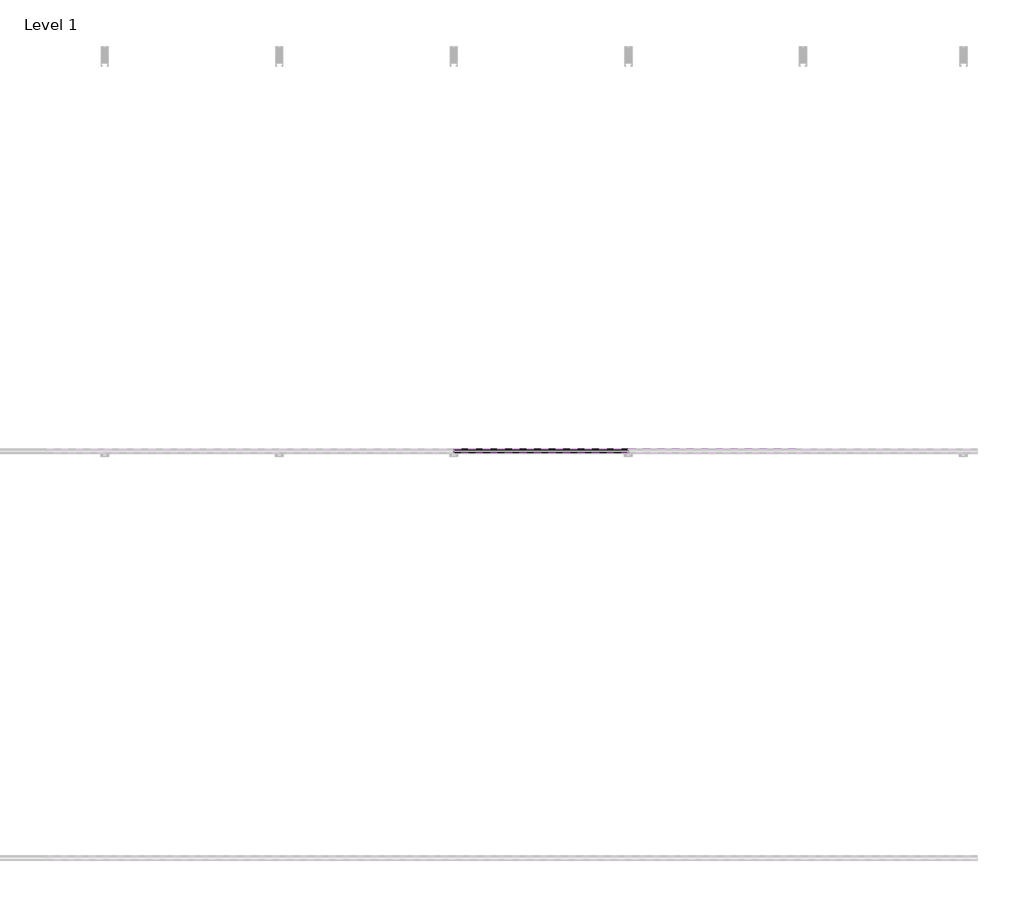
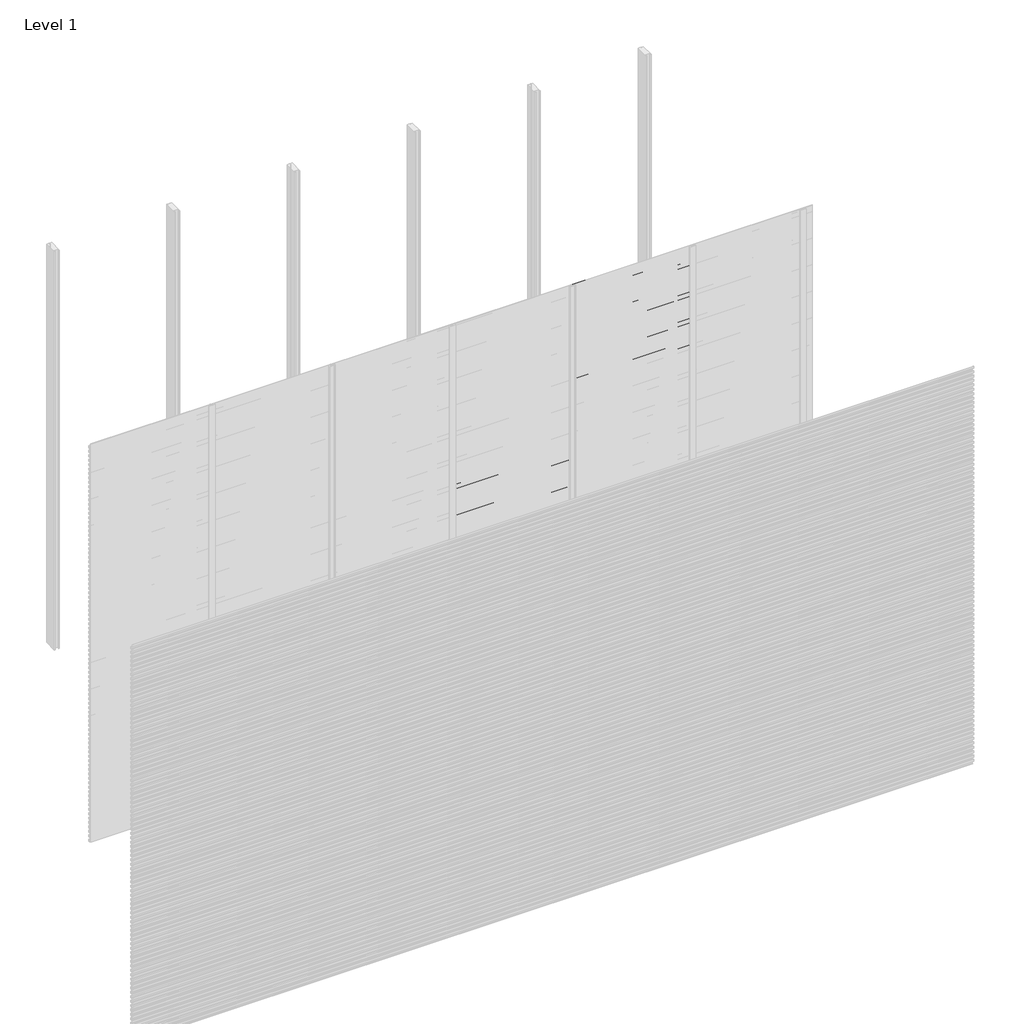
# One storey, part 57 of 96: 77 proxies.
"""IFC4 building model written with IfcOpenShell, lengths in millimetres."""

from ifc_helpers import new_model, si_unit, frame, origin, place, context, project, spatial, polyline, outline, extrude, element, save

model = new_model("IFC4")

# Units and contexts
model_context = context("Model", 3, world=origin())
ifc_project = project(units=[si_unit("LENGTHUNIT", "METRE", prefix="MILLI")], contexts=[model_context])

# Site, building, storey
site = spatial("IfcSite", under=ifc_project)
building = spatial("IfcBuilding", under=site)
storey = spatial("IfcBuildingStorey", under=building, Name="Level 1", Elevation=0.0)

# Proxies
placement = place(None, origin())
element("IfcBuildingElementProxy", 1, Name="Wall Sweeps", at=placement, inside=storey, context=model_context, shape_type="SweptSolid", body=[
    extrude(outline(polyline([(-23977.6, 1772.9655033), (-23977.6, 1758.6779188), (-23982.4114965, 1755.9), (-23982.4114965, 1757.1701706), (-23978.85, 1759.2264016), (-23978.85, 1772.2437382), (-23998.0, 1783.3000799), (-23998.0, 1798.2), (-23996.75, 1798.2), (-23996.75, 1784.0217609), (-23977.6, 1772.9655033)])), frame((3428.5714286, 0.0, 0.0), z_axis=(1.0, 0.0, 0.0), x_axis=(0.0, 1.0, 0.0)), (0.0, 0.0, 1.0), 857.1428571),
])
element("IfcBuildingElementProxy", 2, Name="Wall Sweeps", at=placement, inside=storey, context=model_context, shape_type="SweptSolid", body=[
    extrude(outline(polyline([(-23977.6, 1739.6655033), (-23977.6, 1725.3779188), (-23982.4114965, 1722.6), (-23982.4114965, 1723.8701706), (-23978.85, 1725.9264016), (-23978.85, 1738.9437382), (-23998.0, 1750.0000799), (-23998.0, 1764.9), (-23996.75, 1764.9), (-23996.75, 1750.7217609), (-23977.6, 1739.6655033)])), frame((3428.5714286, 0.0, 0.0), z_axis=(1.0, 0.0, 0.0), x_axis=(0.0, 1.0, 0.0)), (0.0, 0.0, 1.0), 857.1428571),
])
element("IfcBuildingElementProxy", 3, Name="Wall Sweeps", at=placement, inside=storey, context=model_context, shape_type="SweptSolid", body=[
    extrude(outline(polyline([(-23977.6, 1706.3655033), (-23977.6, 1692.0779188), (-23982.4114965, 1689.3), (-23982.4114965, 1690.5701706), (-23978.85, 1692.6264016), (-23978.85, 1705.6437382), (-23998.0, 1716.7000799), (-23998.0, 1731.6), (-23996.75, 1731.6), (-23996.75, 1717.4217609), (-23977.6, 1706.3655033)])), frame((3428.5714286, 0.0, 0.0), z_axis=(1.0, 0.0, 0.0), x_axis=(0.0, 1.0, 0.0)), (0.0, 0.0, 1.0), 857.1428571),
])
element("IfcBuildingElementProxy", 4, Name="Wall Sweeps", at=placement, inside=storey, context=model_context, shape_type="SweptSolid", body=[
    extrude(outline(polyline([(-23977.6, 1673.0655033), (-23977.6, 1658.7779188), (-23982.4114965, 1656.0), (-23982.4114965, 1657.2701706), (-23978.85, 1659.3264016), (-23978.85, 1672.3437382), (-23998.0, 1683.4000799), (-23998.0, 1698.3), (-23996.75, 1698.3), (-23996.75, 1684.1217609), (-23977.6, 1673.0655033)])), frame((3428.5714286, 0.0, 0.0), z_axis=(1.0, 0.0, 0.0), x_axis=(0.0, 1.0, 0.0)), (0.0, 0.0, 1.0), 857.1428571),
])
element("IfcBuildingElementProxy", 5, Name="Wall Sweeps", at=placement, inside=storey, context=model_context, shape_type="SweptSolid", body=[
    extrude(outline(polyline([(-23977.6, 1639.7655033), (-23977.6, 1625.4779188), (-23982.4114965, 1622.7), (-23982.4114965, 1623.9701706), (-23978.85, 1626.0264016), (-23978.85, 1639.0437382), (-23998.0, 1650.1000799), (-23998.0, 1665.0), (-23996.75, 1665.0), (-23996.75, 1650.8217609), (-23977.6, 1639.7655033)])), frame((3428.5714286, 0.0, 0.0), z_axis=(1.0, 0.0, 0.0), x_axis=(0.0, 1.0, 0.0)), (0.0, 0.0, 1.0), 857.1428571),
])
element("IfcBuildingElementProxy", 6, Name="Wall Sweeps", at=placement, inside=storey, context=model_context, shape_type="SweptSolid", body=[
    extrude(outline(polyline([(-23977.6, 1606.4655033), (-23977.6, 1592.1779188), (-23982.4114965, 1589.4), (-23982.4114965, 1590.6701706), (-23978.85, 1592.7264016), (-23978.85, 1605.7437382), (-23998.0, 1616.8000799), (-23998.0, 1631.7), (-23996.75, 1631.7), (-23996.75, 1617.5217609), (-23977.6, 1606.4655033)])), frame((3428.5714286, 0.0, 0.0), z_axis=(1.0, 0.0, 0.0), x_axis=(0.0, 1.0, 0.0)), (0.0, 0.0, 1.0), 857.1428571),
])
element("IfcBuildingElementProxy", 7, Name="Wall Sweeps", at=placement, inside=storey, context=model_context, shape_type="SweptSolid", body=[
    extrude(outline(polyline([(-23977.6, 1573.1655033), (-23977.6, 1558.8779188), (-23982.4114965, 1556.1), (-23982.4114965, 1557.3701706), (-23978.85, 1559.4264016), (-23978.85, 1572.4437382), (-23998.0, 1583.5000799), (-23998.0, 1598.4), (-23996.75, 1598.4), (-23996.75, 1584.2217609), (-23977.6, 1573.1655033)])), frame((3428.5714286, 0.0, 0.0), z_axis=(1.0, 0.0, 0.0), x_axis=(0.0, 1.0, 0.0)), (0.0, 0.0, 1.0), 857.1428571),
])
element("IfcBuildingElementProxy", 8, Name="Wall Sweeps", at=placement, inside=storey, context=model_context, shape_type="SweptSolid", body=[
    extrude(outline(polyline([(-23977.6, 1539.8655033), (-23977.6, 1525.5779188), (-23982.4114965, 1522.8), (-23982.4114965, 1524.0701706), (-23978.85, 1526.1264016), (-23978.85, 1539.1437382), (-23998.0, 1550.2000799), (-23998.0, 1565.1), (-23996.75, 1565.1), (-23996.75, 1550.9217609), (-23977.6, 1539.8655033)])), frame((3428.5714286, 0.0, 0.0), z_axis=(1.0, 0.0, 0.0), x_axis=(0.0, 1.0, 0.0)), (0.0, 0.0, 1.0), 857.1428571),
])
element("IfcBuildingElementProxy", 9, Name="Wall Sweeps", at=placement, inside=storey, context=model_context, shape_type="SweptSolid", body=[
    extrude(outline(polyline([(-23977.6, 1506.5655033), (-23977.6, 1492.2779188), (-23982.4114965, 1489.5), (-23982.4114965, 1490.7701706), (-23978.85, 1492.8264016), (-23978.85, 1505.8437382), (-23998.0, 1516.9000799), (-23998.0, 1531.8), (-23996.75, 1531.8), (-23996.75, 1517.6217609), (-23977.6, 1506.5655033)])), frame((3428.5714286, 0.0, 0.0), z_axis=(1.0, 0.0, 0.0), x_axis=(0.0, 1.0, 0.0)), (0.0, 0.0, 1.0), 857.1428571),
])
element("IfcBuildingElementProxy", 10, Name="Wall Sweeps", at=placement, inside=storey, context=model_context, shape_type="SweptSolid", body=[
    extrude(outline(polyline([(-23977.6, 1473.2655033), (-23977.6, 1458.9779188), (-23982.4114965, 1456.2), (-23982.4114965, 1457.4701706), (-23978.85, 1459.5264016), (-23978.85, 1472.5437382), (-23998.0, 1483.6000799), (-23998.0, 1498.5), (-23996.75, 1498.5), (-23996.75, 1484.3217609), (-23977.6, 1473.2655033)])), frame((3428.5714286, 0.0, 0.0), z_axis=(1.0, 0.0, 0.0), x_axis=(0.0, 1.0, 0.0)), (0.0, 0.0, 1.0), 857.1428571),
])
element("IfcBuildingElementProxy", 11, Name="Wall Sweeps", at=placement, inside=storey, context=model_context, shape_type="SweptSolid", body=[
    extrude(outline(polyline([(-23977.6, 1439.9655033), (-23977.6, 1425.6779188), (-23982.4114965, 1422.9), (-23982.4114965, 1424.1701706), (-23978.85, 1426.2264016), (-23978.85, 1439.2437382), (-23998.0, 1450.3000799), (-23998.0, 1465.2), (-23996.75, 1465.2), (-23996.75, 1451.0217609), (-23977.6, 1439.9655033)])), frame((3428.5714286, 0.0, 0.0), z_axis=(1.0, 0.0, 0.0), x_axis=(0.0, 1.0, 0.0)), (0.0, 0.0, 1.0), 857.1428571),
])
element("IfcBuildingElementProxy", 12, Name="Wall Sweeps", at=placement, inside=storey, context=model_context, shape_type="SweptSolid", body=[
    extrude(outline(polyline([(-23977.6, 1406.6655033), (-23977.6, 1392.3779188), (-23982.4114965, 1389.6), (-23982.4114965, 1390.8701706), (-23978.85, 1392.9264016), (-23978.85, 1405.9437382), (-23998.0, 1417.0000799), (-23998.0, 1431.9), (-23996.75, 1431.9), (-23996.75, 1417.7217609), (-23977.6, 1406.6655033)])), frame((3428.5714286, 0.0, 0.0), z_axis=(1.0, 0.0, 0.0), x_axis=(0.0, 1.0, 0.0)), (0.0, 0.0, 1.0), 857.1428571),
])
element("IfcBuildingElementProxy", 13, Name="Wall Sweeps", at=placement, inside=storey, context=model_context, shape_type="SweptSolid", body=[
    extrude(outline(polyline([(-23977.6, 1373.3655033), (-23977.6, 1359.0779188), (-23982.4114965, 1356.3), (-23982.4114965, 1357.5701706), (-23978.85, 1359.6264016), (-23978.85, 1372.6437382), (-23998.0, 1383.7000799), (-23998.0, 1398.6), (-23996.75, 1398.6), (-23996.75, 1384.4217609), (-23977.6, 1373.3655033)])), frame((3428.5714286, 0.0, 0.0), z_axis=(1.0, 0.0, 0.0), x_axis=(0.0, 1.0, 0.0)), (0.0, 0.0, 1.0), 857.1428571),
])
element("IfcBuildingElementProxy", 14, Name="Wall Sweeps", at=placement, inside=storey, context=model_context, shape_type="SweptSolid", body=[
    extrude(outline(polyline([(-23977.6, 1340.0655033), (-23977.6, 1325.7779188), (-23982.4114965, 1323.0), (-23982.4114965, 1324.2701706), (-23978.85, 1326.3264016), (-23978.85, 1339.3437382), (-23998.0, 1350.4000799), (-23998.0, 1365.3), (-23996.75, 1365.3), (-23996.75, 1351.1217609), (-23977.6, 1340.0655033)])), frame((3428.5714286, 0.0, 0.0), z_axis=(1.0, 0.0, 0.0), x_axis=(0.0, 1.0, 0.0)), (0.0, 0.0, 1.0), 857.1428571),
])
element("IfcBuildingElementProxy", 15, Name="Wall Sweeps", at=placement, inside=storey, context=model_context, shape_type="SweptSolid", body=[
    extrude(outline(polyline([(-23977.6, 1306.7655033), (-23977.6, 1292.4779188), (-23982.4114965, 1289.7), (-23982.4114965, 1290.9701706), (-23978.85, 1293.0264016), (-23978.85, 1306.0437382), (-23998.0, 1317.1000799), (-23998.0, 1332.0), (-23996.75, 1332.0), (-23996.75, 1317.8217609), (-23977.6, 1306.7655033)])), frame((3428.5714286, 0.0, 0.0), z_axis=(1.0, 0.0, 0.0), x_axis=(0.0, 1.0, 0.0)), (0.0, 0.0, 1.0), 857.1428571),
])
element("IfcBuildingElementProxy", 16, Name="Wall Sweeps", at=placement, inside=storey, context=model_context, shape_type="SweptSolid", body=[
    extrude(outline(polyline([(-23977.6, 1273.4655033), (-23977.6, 1259.1779188), (-23982.4114965, 1256.4), (-23982.4114965, 1257.6701706), (-23978.85, 1259.7264016), (-23978.85, 1272.7437382), (-23998.0, 1283.8000799), (-23998.0, 1298.7), (-23996.75, 1298.7), (-23996.75, 1284.5217609), (-23977.6, 1273.4655033)])), frame((3428.5714286, 0.0, 0.0), z_axis=(1.0, 0.0, 0.0), x_axis=(0.0, 1.0, 0.0)), (0.0, 0.0, 1.0), 857.1428571),
])
element("IfcBuildingElementProxy", 17, Name="Wall Sweeps", at=placement, inside=storey, context=model_context, shape_type="SweptSolid", body=[
    extrude(outline(polyline([(-23977.6, 1240.1655033), (-23977.6, 1225.8779188), (-23982.4114965, 1223.1), (-23982.4114965, 1224.3701706), (-23978.85, 1226.4264016), (-23978.85, 1239.4437382), (-23998.0, 1250.5000799), (-23998.0, 1265.4), (-23996.75, 1265.4), (-23996.75, 1251.2217609), (-23977.6, 1240.1655033)])), frame((3428.5714286, 0.0, 0.0), z_axis=(1.0, 0.0, 0.0), x_axis=(0.0, 1.0, 0.0)), (0.0, 0.0, 1.0), 857.1428571),
])
element("IfcBuildingElementProxy", 18, Name="Wall Sweeps", at=placement, inside=storey, context=model_context, shape_type="SweptSolid", body=[
    extrude(outline(polyline([(-23977.6, 1206.8655033), (-23977.6, 1192.5779188), (-23982.4114965, 1189.8), (-23982.4114965, 1191.0701706), (-23978.85, 1193.1264016), (-23978.85, 1206.1437382), (-23998.0, 1217.2000799), (-23998.0, 1232.1), (-23996.75, 1232.1), (-23996.75, 1217.9217609), (-23977.6, 1206.8655033)])), frame((3428.5714286, 0.0, 0.0), z_axis=(1.0, 0.0, 0.0), x_axis=(0.0, 1.0, 0.0)), (0.0, 0.0, 1.0), 857.1428571),
])
element("IfcBuildingElementProxy", 19, Name="Wall Sweeps", at=placement, inside=storey, context=model_context, shape_type="SweptSolid", body=[
    extrude(outline(polyline([(-23977.6, 1173.5655033), (-23977.6, 1159.2779188), (-23982.4114965, 1156.5), (-23982.4114965, 1157.7701706), (-23978.85, 1159.8264016), (-23978.85, 1172.8437382), (-23998.0, 1183.9000799), (-23998.0, 1198.8), (-23996.75, 1198.8), (-23996.75, 1184.6217609), (-23977.6, 1173.5655033)])), frame((3428.5714286, 0.0, 0.0), z_axis=(1.0, 0.0, 0.0), x_axis=(0.0, 1.0, 0.0)), (0.0, 0.0, 1.0), 857.1428571),
])
element("IfcBuildingElementProxy", 20, Name="Wall Sweeps", at=placement, inside=storey, context=model_context, shape_type="SweptSolid", body=[
    extrude(outline(polyline([(-23977.6, 1140.2655033), (-23977.6, 1125.9779188), (-23982.4114965, 1123.2), (-23982.4114965, 1124.4701706), (-23978.85, 1126.5264016), (-23978.85, 1139.5437382), (-23998.0, 1150.6000799), (-23998.0, 1165.5), (-23996.75, 1165.5), (-23996.75, 1151.3217609), (-23977.6, 1140.2655033)])), frame((3428.5714286, 0.0, 0.0), z_axis=(1.0, 0.0, 0.0), x_axis=(0.0, 1.0, 0.0)), (0.0, 0.0, 1.0), 857.1428571),
])
element("IfcBuildingElementProxy", 21, Name="Wall Sweeps", at=placement, inside=storey, context=model_context, shape_type="SweptSolid", body=[
    extrude(outline(polyline([(-23977.6, 1106.9655033), (-23977.6, 1092.6779188), (-23982.4114965, 1089.9), (-23982.4114965, 1091.1701706), (-23978.85, 1093.2264016), (-23978.85, 1106.2437382), (-23998.0, 1117.3000799), (-23998.0, 1132.2), (-23996.75, 1132.2), (-23996.75, 1118.0217609), (-23977.6, 1106.9655033)])), frame((3428.5714286, 0.0, 0.0), z_axis=(1.0, 0.0, 0.0), x_axis=(0.0, 1.0, 0.0)), (0.0, 0.0, 1.0), 857.1428571),
])
element("IfcBuildingElementProxy", 22, Name="Wall Sweeps", at=placement, inside=storey, context=model_context, shape_type="SweptSolid", body=[
    extrude(outline(polyline([(-23977.6, 1073.6655033), (-23977.6, 1059.3779188), (-23982.4114965, 1056.6), (-23982.4114965, 1057.8701706), (-23978.85, 1059.9264016), (-23978.85, 1072.9437382), (-23998.0, 1084.0000799), (-23998.0, 1098.9), (-23996.75, 1098.9), (-23996.75, 1084.7217609), (-23977.6, 1073.6655033)])), frame((3428.5714286, 0.0, 0.0), z_axis=(1.0, 0.0, 0.0), x_axis=(0.0, 1.0, 0.0)), (0.0, 0.0, 1.0), 857.1428571),
])
element("IfcBuildingElementProxy", 23, Name="Wall Sweeps", at=placement, inside=storey, context=model_context, shape_type="SweptSolid", body=[
    extrude(outline(polyline([(-23977.6, 1040.3655033), (-23977.6, 1026.0779188), (-23982.4114965, 1023.3), (-23982.4114965, 1024.5701706), (-23978.85, 1026.6264016), (-23978.85, 1039.6437382), (-23998.0, 1050.7000799), (-23998.0, 1065.6), (-23996.75, 1065.6), (-23996.75, 1051.4217609), (-23977.6, 1040.3655033)])), frame((3428.5714286, 0.0, 0.0), z_axis=(1.0, 0.0, 0.0), x_axis=(0.0, 1.0, 0.0)), (0.0, 0.0, 1.0), 857.1428571),
])
element("IfcBuildingElementProxy", 24, Name="Wall Sweeps", at=placement, inside=storey, context=model_context, shape_type="SweptSolid", body=[
    extrude(outline(polyline([(-23977.6, 1007.0655033), (-23977.6, 992.7779188), (-23982.4114965, 990.0), (-23982.4114965, 991.2701706), (-23978.85, 993.3264016), (-23978.85, 1006.3437382), (-23998.0, 1017.4000799), (-23998.0, 1032.3), (-23996.75, 1032.3), (-23996.75, 1018.1217609), (-23977.6, 1007.0655033)])), frame((3428.5714286, 0.0, 0.0), z_axis=(1.0, 0.0, 0.0), x_axis=(0.0, 1.0, 0.0)), (0.0, 0.0, 1.0), 857.1428571),
])
element("IfcBuildingElementProxy", 25, Name="Wall Sweeps", at=placement, inside=storey, context=model_context, shape_type="SweptSolid", body=[
    extrude(outline(polyline([(-23977.6, 973.7655033), (-23977.6, 959.4779188), (-23982.4114965, 956.7), (-23982.4114965, 957.9701706), (-23978.85, 960.0264016), (-23978.85, 973.0437382), (-23998.0, 984.1000799), (-23998.0, 999.0), (-23996.75, 999.0), (-23996.75, 984.8217609), (-23977.6, 973.7655033)])), frame((3428.5714286, 0.0, 0.0), z_axis=(1.0, 0.0, 0.0), x_axis=(0.0, 1.0, 0.0)), (0.0, 0.0, 1.0), 857.1428571),
])
element("IfcBuildingElementProxy", 26, Name="Wall Sweeps", at=placement, inside=storey, context=model_context, shape_type="SweptSolid", body=[
    extrude(outline(polyline([(-23977.6, 940.4655033), (-23977.6, 926.1779188), (-23982.4114965, 923.4), (-23982.4114965, 924.6701706), (-23978.85, 926.7264016), (-23978.85, 939.7437382), (-23998.0, 950.8000799), (-23998.0, 965.7), (-23996.75, 965.7), (-23996.75, 951.5217609), (-23977.6, 940.4655033)])), frame((3428.5714286, 0.0, 0.0), z_axis=(1.0, 0.0, 0.0), x_axis=(0.0, 1.0, 0.0)), (0.0, 0.0, 1.0), 857.1428571),
])
element("IfcBuildingElementProxy", 27, Name="Wall Sweeps", at=placement, inside=storey, context=model_context, shape_type="SweptSolid", body=[
    extrude(outline(polyline([(-23977.6, 907.1655033), (-23977.6, 892.8779188), (-23982.4114965, 890.1), (-23982.4114965, 891.3701706), (-23978.85, 893.4264016), (-23978.85, 906.4437382), (-23998.0, 917.5000799), (-23998.0, 932.4), (-23996.75, 932.4), (-23996.75, 918.2217609), (-23977.6, 907.1655033)])), frame((3428.5714286, 0.0, 0.0), z_axis=(1.0, 0.0, 0.0), x_axis=(0.0, 1.0, 0.0)), (0.0, 0.0, 1.0), 857.1428571),
])
element("IfcBuildingElementProxy", 28, Name="Wall Sweeps", at=placement, inside=storey, context=model_context, shape_type="SweptSolid", body=[
    extrude(outline(polyline([(-23977.6, 873.8655033), (-23977.6, 859.5779188), (-23982.4114965, 856.8), (-23982.4114965, 858.0701706), (-23978.85, 860.1264016), (-23978.85, 873.1437382), (-23998.0, 884.2000799), (-23998.0, 899.1), (-23996.75, 899.1), (-23996.75, 884.9217609), (-23977.6, 873.8655033)])), frame((3428.5714286, 0.0, 0.0), z_axis=(1.0, 0.0, 0.0), x_axis=(0.0, 1.0, 0.0)), (0.0, 0.0, 1.0), 857.1428571),
])
element("IfcBuildingElementProxy", 29, Name="Wall Sweeps", at=placement, inside=storey, context=model_context, shape_type="SweptSolid", body=[
    extrude(outline(polyline([(-23977.6, 840.5655033), (-23977.6, 826.2779188), (-23982.4114965, 823.5), (-23982.4114965, 824.7701706), (-23978.85, 826.8264016), (-23978.85, 839.8437382), (-23998.0, 850.9000799), (-23998.0, 865.8), (-23996.75, 865.8), (-23996.75, 851.6217609), (-23977.6, 840.5655033)])), frame((3428.5714286, 0.0, 0.0), z_axis=(1.0, 0.0, 0.0), x_axis=(0.0, 1.0, 0.0)), (0.0, 0.0, 1.0), 857.1428571),
])
element("IfcBuildingElementProxy", 30, Name="Wall Sweeps", at=placement, inside=storey, context=model_context, shape_type="SweptSolid", body=[
    extrude(outline(polyline([(-23977.6, 807.2655033), (-23977.6, 792.9779188), (-23982.4114965, 790.2), (-23982.4114965, 791.4701706), (-23978.85, 793.5264016), (-23978.85, 806.5437382), (-23998.0, 817.6000799), (-23998.0, 832.5), (-23996.75, 832.5), (-23996.75, 818.3217609), (-23977.6, 807.2655033)])), frame((3428.5714286, 0.0, 0.0), z_axis=(1.0, 0.0, 0.0), x_axis=(0.0, 1.0, 0.0)), (0.0, 0.0, 1.0), 857.1428571),
])
element("IfcBuildingElementProxy", 31, Name="Wall Sweeps", at=placement, inside=storey, context=model_context, shape_type="SweptSolid", body=[
    extrude(outline(polyline([(-23977.6, 773.9655033), (-23977.6, 759.6779188), (-23982.4114965, 756.9), (-23982.4114965, 758.1701706), (-23978.85, 760.2264016), (-23978.85, 773.2437382), (-23998.0, 784.3000799), (-23998.0, 799.2), (-23996.75, 799.2), (-23996.75, 785.0217609), (-23977.6, 773.9655033)])), frame((3428.5714286, 0.0, 0.0), z_axis=(1.0, 0.0, 0.0), x_axis=(0.0, 1.0, 0.0)), (0.0, 0.0, 1.0), 857.1428571),
])
element("IfcBuildingElementProxy", 32, Name="Wall Sweeps", at=placement, inside=storey, context=model_context, shape_type="SweptSolid", body=[
    extrude(outline(polyline([(-23977.6, 740.6655033), (-23977.6, 726.3779188), (-23982.4114965, 723.6), (-23982.4114965, 724.8701706), (-23978.85, 726.9264016), (-23978.85, 739.9437382), (-23998.0, 751.0000799), (-23998.0, 765.9), (-23996.75, 765.9), (-23996.75, 751.7217609), (-23977.6, 740.6655033)])), frame((3428.5714286, 0.0, 0.0), z_axis=(1.0, 0.0, 0.0), x_axis=(0.0, 1.0, 0.0)), (0.0, 0.0, 1.0), 857.1428571),
])
element("IfcBuildingElementProxy", 33, Name="Wall Sweeps", at=placement, inside=storey, context=model_context, shape_type="SweptSolid", body=[
    extrude(outline(polyline([(-23977.6, 707.3655033), (-23977.6, 693.0779188), (-23982.4114965, 690.3), (-23982.4114965, 691.5701706), (-23978.85, 693.6264016), (-23978.85, 706.6437382), (-23998.0, 717.7000799), (-23998.0, 732.6), (-23996.75, 732.6), (-23996.75, 718.4217609), (-23977.6, 707.3655033)])), frame((3428.5714286, 0.0, 0.0), z_axis=(1.0, 0.0, 0.0), x_axis=(0.0, 1.0, 0.0)), (0.0, 0.0, 1.0), 857.1428571),
])
element("IfcBuildingElementProxy", 34, Name="Wall Sweeps", at=placement, inside=storey, context=model_context, shape_type="SweptSolid", body=[
    extrude(outline(polyline([(-23977.6, 674.0655033), (-23977.6, 659.7779188), (-23982.4114965, 657.0), (-23982.4114965, 658.2701706), (-23978.85, 660.3264016), (-23978.85, 673.3437382), (-23998.0, 684.4000799), (-23998.0, 699.3), (-23996.75, 699.3), (-23996.75, 685.1217609), (-23977.6, 674.0655033)])), frame((3428.5714286, 0.0, 0.0), z_axis=(1.0, 0.0, 0.0), x_axis=(0.0, 1.0, 0.0)), (0.0, 0.0, 1.0), 857.1428571),
])
element("IfcBuildingElementProxy", 35, Name="Wall Sweeps", at=placement, inside=storey, context=model_context, shape_type="SweptSolid", body=[
    extrude(outline(polyline([(-23977.6, 640.7655033), (-23977.6, 626.4779188), (-23982.4114965, 623.7), (-23982.4114965, 624.9701706), (-23978.85, 627.0264016), (-23978.85, 640.0437382), (-23998.0, 651.1000799), (-23998.0, 666.0), (-23996.75, 666.0), (-23996.75, 651.8217609), (-23977.6, 640.7655033)])), frame((3428.5714286, 0.0, 0.0), z_axis=(1.0, 0.0, 0.0), x_axis=(0.0, 1.0, 0.0)), (0.0, 0.0, 1.0), 857.1428571),
])
element("IfcBuildingElementProxy", 36, Name="Wall Sweeps", at=placement, inside=storey, context=model_context, shape_type="SweptSolid", body=[
    extrude(outline(polyline([(-23977.6, 607.4655033), (-23977.6, 593.1779188), (-23982.4114965, 590.4), (-23982.4114965, 591.6701706), (-23978.85, 593.7264016), (-23978.85, 606.7437382), (-23998.0, 617.8000799), (-23998.0, 632.7), (-23996.75, 632.7), (-23996.75, 618.5217609), (-23977.6, 607.4655033)])), frame((3428.5714286, 0.0, 0.0), z_axis=(1.0, 0.0, 0.0), x_axis=(0.0, 1.0, 0.0)), (0.0, 0.0, 1.0), 857.1428571),
])
element("IfcBuildingElementProxy", 37, Name="Wall Sweeps", at=placement, inside=storey, context=model_context, shape_type="SweptSolid", body=[
    extrude(outline(polyline([(-23977.6, 574.1655033), (-23977.6, 559.8779188), (-23982.4114965, 557.1), (-23982.4114965, 558.3701706), (-23978.85, 560.4264016), (-23978.85, 573.4437382), (-23998.0, 584.5000799), (-23998.0, 599.4), (-23996.75, 599.4), (-23996.75, 585.2217609), (-23977.6, 574.1655033)])), frame((3428.5714286, 0.0, 0.0), z_axis=(1.0, 0.0, 0.0), x_axis=(0.0, 1.0, 0.0)), (0.0, 0.0, 1.0), 857.1428571),
])
element("IfcBuildingElementProxy", 38, Name="Wall Sweeps", at=placement, inside=storey, context=model_context, shape_type="SweptSolid", body=[
    extrude(outline(polyline([(-23977.6, 540.8655033), (-23977.6, 526.5779188), (-23982.4114965, 523.8), (-23982.4114965, 525.0701706), (-23978.85, 527.1264016), (-23978.85, 540.1437382), (-23998.0, 551.2000799), (-23998.0, 566.1), (-23996.75, 566.1), (-23996.75, 551.9217609), (-23977.6, 540.8655033)])), frame((3428.5714286, 0.0, 0.0), z_axis=(1.0, 0.0, 0.0), x_axis=(0.0, 1.0, 0.0)), (0.0, 0.0, 1.0), 857.1428571),
])
element("IfcBuildingElementProxy", 39, Name="Wall Sweeps", at=placement, inside=storey, context=model_context, shape_type="SweptSolid", body=[
    extrude(outline(polyline([(-23977.6, 507.5655033), (-23977.6, 493.2779188), (-23982.4114965, 490.5), (-23982.4114965, 491.7701706), (-23978.85, 493.8264016), (-23978.85, 506.8437382), (-23998.0, 517.9000799), (-23998.0, 532.8), (-23996.75, 532.8), (-23996.75, 518.6217609), (-23977.6, 507.5655033)])), frame((3428.5714286, 0.0, 0.0), z_axis=(1.0, 0.0, 0.0), x_axis=(0.0, 1.0, 0.0)), (0.0, 0.0, 1.0), 857.1428571),
])
element("IfcBuildingElementProxy", 40, Name="Wall Sweeps", at=placement, inside=storey, context=model_context, shape_type="SweptSolid", body=[
    extrude(outline(polyline([(-23977.6, 474.2655033), (-23977.6, 459.9779188), (-23982.4114965, 457.2), (-23982.4114965, 458.4701706), (-23978.85, 460.5264016), (-23978.85, 473.5437382), (-23998.0, 484.6000799), (-23998.0, 499.5), (-23996.75, 499.5), (-23996.75, 485.3217609), (-23977.6, 474.2655033)])), frame((3428.5714286, 0.0, 0.0), z_axis=(1.0, 0.0, 0.0), x_axis=(0.0, 1.0, 0.0)), (0.0, 0.0, 1.0), 857.1428571),
])
element("IfcBuildingElementProxy", 41, Name="Wall Sweeps", at=placement, inside=storey, context=model_context, shape_type="SweptSolid", body=[
    extrude(outline(polyline([(-23977.6, 440.9655033), (-23977.6, 426.6779188), (-23982.4114965, 423.9), (-23982.4114965, 425.1701706), (-23978.85, 427.2264016), (-23978.85, 440.2437382), (-23998.0, 451.3000799), (-23998.0, 466.2), (-23996.75, 466.2), (-23996.75, 452.0217609), (-23977.6, 440.9655033)])), frame((3428.5714286, 0.0, 0.0), z_axis=(1.0, 0.0, 0.0), x_axis=(0.0, 1.0, 0.0)), (0.0, 0.0, 1.0), 857.1428571),
])
element("IfcBuildingElementProxy", 42, Name="Wall Sweeps", at=placement, inside=storey, context=model_context, shape_type="SweptSolid", body=[
    extrude(outline(polyline([(-23977.6, 407.6655033), (-23977.6, 393.3779188), (-23982.4114965, 390.6), (-23982.4114965, 391.8701706), (-23978.85, 393.9264016), (-23978.85, 406.9437382), (-23998.0, 418.0000799), (-23998.0, 432.9), (-23996.75, 432.9), (-23996.75, 418.7217609), (-23977.6, 407.6655033)])), frame((3428.5714286, 0.0, 0.0), z_axis=(1.0, 0.0, 0.0), x_axis=(0.0, 1.0, 0.0)), (0.0, 0.0, 1.0), 857.1428571),
])
element("IfcBuildingElementProxy", 43, Name="Wall Sweeps", at=placement, inside=storey, context=model_context, shape_type="SweptSolid", body=[
    extrude(outline(polyline([(-23977.6, 374.3655033), (-23977.6, 360.0779188), (-23982.4114965, 357.3), (-23982.4114965, 358.5701706), (-23978.85, 360.6264016), (-23978.85, 373.6437382), (-23998.0, 384.7000799), (-23998.0, 399.6), (-23996.75, 399.6), (-23996.75, 385.4217609), (-23977.6, 374.3655033)])), frame((3428.5714286, 0.0, 0.0), z_axis=(1.0, 0.0, 0.0), x_axis=(0.0, 1.0, 0.0)), (0.0, 0.0, 1.0), 857.1428571),
])
element("IfcBuildingElementProxy", 44, Name="Wall Sweeps", at=placement, inside=storey, context=model_context, shape_type="SweptSolid", body=[
    extrude(outline(polyline([(-23977.6, 341.0655033), (-23977.6, 326.7779188), (-23982.4114965, 324.0), (-23982.4114965, 325.2701706), (-23978.85, 327.3264016), (-23978.85, 340.3437382), (-23998.0, 351.4000799), (-23998.0, 366.3), (-23996.75, 366.3), (-23996.75, 352.1217609), (-23977.6, 341.0655033)])), frame((3428.5714286, 0.0, 0.0), z_axis=(1.0, 0.0, 0.0), x_axis=(0.0, 1.0, 0.0)), (0.0, 0.0, 1.0), 857.1428571),
])
element("IfcBuildingElementProxy", 45, Name="Wall Sweeps", at=placement, inside=storey, context=model_context, shape_type="SweptSolid", body=[
    extrude(outline(polyline([(-23977.6, 307.7655033), (-23977.6, 293.4779188), (-23982.4114965, 290.7), (-23982.4114965, 291.9701706), (-23978.85, 294.0264016), (-23978.85, 307.0437382), (-23998.0, 318.1000799), (-23998.0, 333.0), (-23996.75, 333.0), (-23996.75, 318.8217609), (-23977.6, 307.7655033)])), frame((3428.5714286, 0.0, 0.0), z_axis=(1.0, 0.0, 0.0), x_axis=(0.0, 1.0, 0.0)), (0.0, 0.0, 1.0), 857.1428571),
])
element("IfcBuildingElementProxy", 46, Name="Wall Sweeps", at=placement, inside=storey, context=model_context, shape_type="SweptSolid", body=[
    extrude(outline(polyline([(-23977.6, 274.4655033), (-23977.6, 260.1779188), (-23982.4114965, 257.4), (-23982.4114965, 258.6701706), (-23978.85, 260.7264016), (-23978.85, 273.7437382), (-23998.0, 284.8000799), (-23998.0, 299.7), (-23996.75, 299.7), (-23996.75, 285.5217609), (-23977.6, 274.4655033)])), frame((3428.5714286, 0.0, 0.0), z_axis=(1.0, 0.0, 0.0), x_axis=(0.0, 1.0, 0.0)), (0.0, 0.0, 1.0), 857.1428571),
])
element("IfcBuildingElementProxy", 47, Name="Wall Sweeps", at=placement, inside=storey, context=model_context, shape_type="SweptSolid", body=[
    extrude(outline(polyline([(-23977.6, 241.1655033), (-23977.6, 226.8779188), (-23982.4114965, 224.1), (-23982.4114965, 225.3701706), (-23978.85, 227.4264016), (-23978.85, 240.4437382), (-23998.0, 251.5000799), (-23998.0, 266.4), (-23996.75, 266.4), (-23996.75, 252.2217609), (-23977.6, 241.1655033)])), frame((3428.5714286, 0.0, 0.0), z_axis=(1.0, 0.0, 0.0), x_axis=(0.0, 1.0, 0.0)), (0.0, 0.0, 1.0), 857.1428571),
])
element("IfcBuildingElementProxy", 48, Name="Wall Sweeps", at=placement, inside=storey, context=model_context, shape_type="SweptSolid", body=[
    extrude(outline(polyline([(-23977.6, 207.8655033), (-23977.6, 193.5779188), (-23982.4114965, 190.8), (-23982.4114965, 192.0701706), (-23978.85, 194.1264016), (-23978.85, 207.1437382), (-23998.0, 218.2000799), (-23998.0, 233.1), (-23996.75, 233.1), (-23996.75, 218.9217609), (-23977.6, 207.8655033)])), frame((3428.5714286, 0.0, 0.0), z_axis=(1.0, 0.0, 0.0), x_axis=(0.0, 1.0, 0.0)), (0.0, 0.0, 1.0), 857.1428571),
])
element("IfcBuildingElementProxy", 49, Name="Wall Sweeps", at=placement, inside=storey, context=model_context, shape_type="SweptSolid", body=[
    extrude(outline(polyline([(-23977.6, 174.5655033), (-23977.6, 160.2779188), (-23982.4114965, 157.5), (-23982.4114965, 158.7701706), (-23978.85, 160.8264016), (-23978.85, 173.8437382), (-23998.0, 184.9000799), (-23998.0, 199.8), (-23996.75, 199.8), (-23996.75, 185.6217609), (-23977.6, 174.5655033)])), frame((3428.5714286, 0.0, 0.0), z_axis=(1.0, 0.0, 0.0), x_axis=(0.0, 1.0, 0.0)), (0.0, 0.0, 1.0), 857.1428571),
])
element("IfcBuildingElementProxy", 50, Name="Wall Sweeps", at=placement, inside=storey, context=model_context, shape_type="SweptSolid", body=[
    extrude(outline(polyline([(-23977.6, 141.2655033), (-23977.6, 126.9779188), (-23982.4114965, 124.2), (-23982.4114965, 125.4701706), (-23978.85, 127.5264016), (-23978.85, 140.5437382), (-23998.0, 151.6000799), (-23998.0, 166.5), (-23996.75, 166.5), (-23996.75, 152.3217609), (-23977.6, 141.2655033)])), frame((3428.5714286, 0.0, 0.0), z_axis=(1.0, 0.0, 0.0), x_axis=(0.0, 1.0, 0.0)), (0.0, 0.0, 1.0), 857.1428571),
])
element("IfcBuildingElementProxy", 51, Name="Wall Sweeps", at=placement, inside=storey, context=model_context, shape_type="SweptSolid", body=[
    extrude(outline(polyline([(-23977.6, 107.9655033), (-23977.6, 93.6779188), (-23982.4114965, 90.9), (-23982.4114965, 92.1701706), (-23978.85, 94.2264016), (-23978.85, 107.2437382), (-23998.0, 118.3000799), (-23998.0, 133.2), (-23996.75, 133.2), (-23996.75, 119.0217609), (-23977.6, 107.9655033)])), frame((3428.5714286, 0.0, 0.0), z_axis=(1.0, 0.0, 0.0), x_axis=(0.0, 1.0, 0.0)), (0.0, 0.0, 1.0), 857.1428571),
])
element("IfcBuildingElementProxy", 52, Name="Wall Sweeps", at=placement, inside=storey, context=model_context, shape_type="SweptSolid", body=[
    extrude(outline(polyline([(-23977.6, 74.6655033), (-23977.6, 60.3779188), (-23982.4114965, 57.6), (-23982.4114965, 58.8701706), (-23978.85, 60.9264016), (-23978.85, 73.9437382), (-23998.0, 85.0000799), (-23998.0, 99.9), (-23996.75, 99.9), (-23996.75, 85.7217609), (-23977.6, 74.6655033)])), frame((3428.5714286, 0.0, 0.0), z_axis=(1.0, 0.0, 0.0), x_axis=(0.0, 1.0, 0.0)), (0.0, 0.0, 1.0), 857.1428571),
])
element("IfcBuildingElementProxy", 53, Name="Wall Sweeps", at=placement, inside=storey, context=model_context, shape_type="SweptSolid", body=[
    extrude(outline(polyline([(-23977.6, 41.3655033), (-23977.6, 27.0779188), (-23982.4114965, 24.3), (-23982.4114965, 25.5701706), (-23978.85, 27.6264016), (-23978.85, 40.6437382), (-23998.0, 51.7000799), (-23998.0, 66.6), (-23996.75, 66.6), (-23996.75, 52.4217609), (-23977.6, 41.3655033)])), frame((3428.5714286, 0.0, 0.0), z_axis=(1.0, 0.0, 0.0), x_axis=(0.0, 1.0, 0.0)), (0.0, 0.0, 1.0), 857.1428571),
])
element("IfcBuildingElementProxy", 54, Name="Wall Sweeps", at=placement, inside=storey, context=model_context, shape_type="SweptSolid", body=[
    extrude(outline(polyline([(-23977.6, 8.0655033), (-23977.6, -6.2220812), (-23982.4114965, -9.0), (-23982.4114965, -7.7298294), (-23978.85, -5.6735984), (-23978.85, 7.3437382), (-23998.0, 18.4000799), (-23998.0, 33.3), (-23996.75, 33.3), (-23996.75, 19.1217609), (-23977.6, 8.0655033)])), frame((3428.5714286, 0.0, 0.0), z_axis=(1.0, 0.0, 0.0), x_axis=(0.0, 1.0, 0.0)), (0.0, 0.0, 1.0), 857.1428571),
])
element("IfcBuildingElementProxy", 55, Name="Wall Sweeps", at=placement, inside=storey, context=model_context, shape_type="SweptSolid", body=[
    extrude(outline(polyline([(-23977.6, 2971.7655033), (-23977.6, 2957.4779188), (-23982.4114965, 2954.7), (-23982.4114965, 2955.9701706), (-23978.85, 2958.0264016), (-23978.85, 2971.0437382), (-23998.0, 2982.1000799), (-23998.0, 2997.0), (-23996.75, 2997.0), (-23996.75, 2982.8217609), (-23977.6, 2971.7655033)])), frame((4285.7142857, 0.0, 0.0), z_axis=(1.0, 0.0, 0.0), x_axis=(0.0, 1.0, 0.0)), (0.0, 0.0, 1.0), 857.1428571),
])
element("IfcBuildingElementProxy", 56, Name="Wall Sweeps", at=placement, inside=storey, context=model_context, shape_type="SweptSolid", body=[
    extrude(outline(polyline([(-23977.6, 2938.4655033), (-23977.6, 2924.1779188), (-23982.4114965, 2921.4), (-23982.4114965, 2922.6701706), (-23978.85, 2924.7264016), (-23978.85, 2937.7437382), (-23998.0, 2948.8000799), (-23998.0, 2963.7), (-23996.75, 2963.7), (-23996.75, 2949.5217609), (-23977.6, 2938.4655033)])), frame((4285.7142857, 0.0, 0.0), z_axis=(1.0, 0.0, 0.0), x_axis=(0.0, 1.0, 0.0)), (0.0, 0.0, 1.0), 857.1428571),
])
element("IfcBuildingElementProxy", 57, Name="Wall Sweeps", at=placement, inside=storey, context=model_context, shape_type="SweptSolid", body=[
    extrude(outline(polyline([(-23977.6, 2905.1655033), (-23977.6, 2890.8779188), (-23982.4114965, 2888.1), (-23982.4114965, 2889.3701706), (-23978.85, 2891.4264016), (-23978.85, 2904.4437382), (-23998.0, 2915.5000799), (-23998.0, 2930.4), (-23996.75, 2930.4), (-23996.75, 2916.2217609), (-23977.6, 2905.1655033)])), frame((4285.7142857, 0.0, 0.0), z_axis=(1.0, 0.0, 0.0), x_axis=(0.0, 1.0, 0.0)), (0.0, 0.0, 1.0), 857.1428571),
])
element("IfcBuildingElementProxy", 58, Name="Wall Sweeps", at=placement, inside=storey, context=model_context, shape_type="SweptSolid", body=[
    extrude(outline(polyline([(-23977.6, 2871.8655033), (-23977.6, 2857.5779188), (-23982.4114965, 2854.8), (-23982.4114965, 2856.0701706), (-23978.85, 2858.1264016), (-23978.85, 2871.1437382), (-23998.0, 2882.2000799), (-23998.0, 2897.1), (-23996.75, 2897.1), (-23996.75, 2882.9217609), (-23977.6, 2871.8655033)])), frame((4285.7142857, 0.0, 0.0), z_axis=(1.0, 0.0, 0.0), x_axis=(0.0, 1.0, 0.0)), (0.0, 0.0, 1.0), 857.1428571),
])
element("IfcBuildingElementProxy", 59, Name="Wall Sweeps", at=placement, inside=storey, context=model_context, shape_type="SweptSolid", body=[
    extrude(outline(polyline([(-23977.6, 2838.5655033), (-23977.6, 2824.2779188), (-23982.4114965, 2821.5), (-23982.4114965, 2822.7701706), (-23978.85, 2824.8264016), (-23978.85, 2837.8437382), (-23998.0, 2848.9000799), (-23998.0, 2863.8), (-23996.75, 2863.8), (-23996.75, 2849.6217609), (-23977.6, 2838.5655033)])), frame((4285.7142857, 0.0, 0.0), z_axis=(1.0, 0.0, 0.0), x_axis=(0.0, 1.0, 0.0)), (0.0, 0.0, 1.0), 857.1428571),
])
element("IfcBuildingElementProxy", 60, Name="Wall Sweeps", at=placement, inside=storey, context=model_context, shape_type="SweptSolid", body=[
    extrude(outline(polyline([(-23977.6, 2805.2655033), (-23977.6, 2790.9779188), (-23982.4114965, 2788.2), (-23982.4114965, 2789.4701706), (-23978.85, 2791.5264016), (-23978.85, 2804.5437382), (-23998.0, 2815.6000799), (-23998.0, 2830.5), (-23996.75, 2830.5), (-23996.75, 2816.3217609), (-23977.6, 2805.2655033)])), frame((4285.7142857, 0.0, 0.0), z_axis=(1.0, 0.0, 0.0), x_axis=(0.0, 1.0, 0.0)), (0.0, 0.0, 1.0), 857.1428571),
])
element("IfcBuildingElementProxy", 61, Name="Wall Sweeps", at=placement, inside=storey, context=model_context, shape_type="SweptSolid", body=[
    extrude(outline(polyline([(-23977.6, 2771.9655033), (-23977.6, 2757.6779188), (-23982.4114965, 2754.9), (-23982.4114965, 2756.1701706), (-23978.85, 2758.2264016), (-23978.85, 2771.2437382), (-23998.0, 2782.3000799), (-23998.0, 2797.2), (-23996.75, 2797.2), (-23996.75, 2783.0217609), (-23977.6, 2771.9655033)])), frame((4285.7142857, 0.0, 0.0), z_axis=(1.0, 0.0, 0.0), x_axis=(0.0, 1.0, 0.0)), (0.0, 0.0, 1.0), 857.1428571),
])
element("IfcBuildingElementProxy", 62, Name="Wall Sweeps", at=placement, inside=storey, context=model_context, shape_type="SweptSolid", body=[
    extrude(outline(polyline([(-23977.6, 2738.6655033), (-23977.6, 2724.3779188), (-23982.4114965, 2721.6), (-23982.4114965, 2722.8701706), (-23978.85, 2724.9264016), (-23978.85, 2737.9437382), (-23998.0, 2749.0000799), (-23998.0, 2763.9), (-23996.75, 2763.9), (-23996.75, 2749.7217609), (-23977.6, 2738.6655033)])), frame((4285.7142857, 0.0, 0.0), z_axis=(1.0, 0.0, 0.0), x_axis=(0.0, 1.0, 0.0)), (0.0, 0.0, 1.0), 857.1428571),
])
element("IfcBuildingElementProxy", 63, Name="Wall Sweeps", at=placement, inside=storey, context=model_context, shape_type="SweptSolid", body=[
    extrude(outline(polyline([(-23977.6, 2705.3655033), (-23977.6, 2691.0779188), (-23982.4114965, 2688.3), (-23982.4114965, 2689.5701706), (-23978.85, 2691.6264016), (-23978.85, 2704.6437382), (-23998.0, 2715.7000799), (-23998.0, 2730.6), (-23996.75, 2730.6), (-23996.75, 2716.4217609), (-23977.6, 2705.3655033)])), frame((4285.7142857, 0.0, 0.0), z_axis=(1.0, 0.0, 0.0), x_axis=(0.0, 1.0, 0.0)), (0.0, 0.0, 1.0), 857.1428571),
])
element("IfcBuildingElementProxy", 64, Name="Wall Sweeps", at=placement, inside=storey, context=model_context, shape_type="SweptSolid", body=[
    extrude(outline(polyline([(-23977.6, 2672.0655033), (-23977.6, 2657.7779188), (-23982.4114965, 2655.0), (-23982.4114965, 2656.2701706), (-23978.85, 2658.3264016), (-23978.85, 2671.3437382), (-23998.0, 2682.4000799), (-23998.0, 2697.3), (-23996.75, 2697.3), (-23996.75, 2683.1217609), (-23977.6, 2672.0655033)])), frame((4285.7142857, 0.0, 0.0), z_axis=(1.0, 0.0, 0.0), x_axis=(0.0, 1.0, 0.0)), (0.0, 0.0, 1.0), 857.1428571),
])
element("IfcBuildingElementProxy", 65, Name="Wall Sweeps", at=placement, inside=storey, context=model_context, shape_type="SweptSolid", body=[
    extrude(outline(polyline([(-23977.6, 2638.7655033), (-23977.6, 2624.4779188), (-23982.4114965, 2621.7), (-23982.4114965, 2622.9701706), (-23978.85, 2625.0264016), (-23978.85, 2638.0437382), (-23998.0, 2649.1000799), (-23998.0, 2664.0), (-23996.75, 2664.0), (-23996.75, 2649.8217609), (-23977.6, 2638.7655033)])), frame((4285.7142857, 0.0, 0.0), z_axis=(1.0, 0.0, 0.0), x_axis=(0.0, 1.0, 0.0)), (0.0, 0.0, 1.0), 857.1428571),
])
element("IfcBuildingElementProxy", 66, Name="Wall Sweeps", at=placement, inside=storey, context=model_context, shape_type="SweptSolid", body=[
    extrude(outline(polyline([(-23977.6, 2605.4655033), (-23977.6, 2591.1779188), (-23982.4114965, 2588.4), (-23982.4114965, 2589.6701706), (-23978.85, 2591.7264016), (-23978.85, 2604.7437382), (-23998.0, 2615.8000799), (-23998.0, 2630.7), (-23996.75, 2630.7), (-23996.75, 2616.5217609), (-23977.6, 2605.4655033)])), frame((4285.7142857, 0.0, 0.0), z_axis=(1.0, 0.0, 0.0), x_axis=(0.0, 1.0, 0.0)), (0.0, 0.0, 1.0), 857.1428571),
])
element("IfcBuildingElementProxy", 67, Name="Wall Sweeps", at=placement, inside=storey, context=model_context, shape_type="SweptSolid", body=[
    extrude(outline(polyline([(-23977.6, 2572.1655033), (-23977.6, 2557.8779188), (-23982.4114965, 2555.1), (-23982.4114965, 2556.3701706), (-23978.85, 2558.4264016), (-23978.85, 2571.4437382), (-23998.0, 2582.5000799), (-23998.0, 2597.4), (-23996.75, 2597.4), (-23996.75, 2583.2217609), (-23977.6, 2572.1655033)])), frame((4285.7142857, 0.0, 0.0), z_axis=(1.0, 0.0, 0.0), x_axis=(0.0, 1.0, 0.0)), (0.0, 0.0, 1.0), 857.1428571),
])
element("IfcBuildingElementProxy", 68, Name="Wall Sweeps", at=placement, inside=storey, context=model_context, shape_type="SweptSolid", body=[
    extrude(outline(polyline([(-23977.6, 2538.8655033), (-23977.6, 2524.5779188), (-23982.4114965, 2521.8), (-23982.4114965, 2523.0701706), (-23978.85, 2525.1264016), (-23978.85, 2538.1437382), (-23998.0, 2549.2000799), (-23998.0, 2564.1), (-23996.75, 2564.1), (-23996.75, 2549.9217609), (-23977.6, 2538.8655033)])), frame((4285.7142857, 0.0, 0.0), z_axis=(1.0, 0.0, 0.0), x_axis=(0.0, 1.0, 0.0)), (0.0, 0.0, 1.0), 857.1428571),
])
element("IfcBuildingElementProxy", 69, Name="Wall Sweeps", at=placement, inside=storey, context=model_context, shape_type="SweptSolid", body=[
    extrude(outline(polyline([(-23977.6, 2505.5655033), (-23977.6, 2491.2779188), (-23982.4114965, 2488.5), (-23982.4114965, 2489.7701706), (-23978.85, 2491.8264016), (-23978.85, 2504.8437382), (-23998.0, 2515.9000799), (-23998.0, 2530.8), (-23996.75, 2530.8), (-23996.75, 2516.6217609), (-23977.6, 2505.5655033)])), frame((4285.7142857, 0.0, 0.0), z_axis=(1.0, 0.0, 0.0), x_axis=(0.0, 1.0, 0.0)), (0.0, 0.0, 1.0), 857.1428571),
])
element("IfcBuildingElementProxy", 70, Name="Wall Sweeps", at=placement, inside=storey, context=model_context, shape_type="SweptSolid", body=[
    extrude(outline(polyline([(-23977.6, 2472.2655033), (-23977.6, 2457.9779188), (-23982.4114965, 2455.2), (-23982.4114965, 2456.4701706), (-23978.85, 2458.5264016), (-23978.85, 2471.5437382), (-23998.0, 2482.6000799), (-23998.0, 2497.5), (-23996.75, 2497.5), (-23996.75, 2483.3217609), (-23977.6, 2472.2655033)])), frame((4285.7142857, 0.0, 0.0), z_axis=(1.0, 0.0, 0.0), x_axis=(0.0, 1.0, 0.0)), (0.0, 0.0, 1.0), 857.1428571),
])
element("IfcBuildingElementProxy", 71, Name="Wall Sweeps", at=placement, inside=storey, context=model_context, shape_type="SweptSolid", body=[
    extrude(outline(polyline([(-23977.6, 2438.9655033), (-23977.6, 2424.6779188), (-23982.4114965, 2421.9), (-23982.4114965, 2423.1701706), (-23978.85, 2425.2264016), (-23978.85, 2438.2437382), (-23998.0, 2449.3000799), (-23998.0, 2464.2), (-23996.75, 2464.2), (-23996.75, 2450.0217609), (-23977.6, 2438.9655033)])), frame((4285.7142857, 0.0, 0.0), z_axis=(1.0, 0.0, 0.0), x_axis=(0.0, 1.0, 0.0)), (0.0, 0.0, 1.0), 857.1428571),
])
element("IfcBuildingElementProxy", 72, Name="Wall Sweeps", at=placement, inside=storey, context=model_context, shape_type="SweptSolid", body=[
    extrude(outline(polyline([(-23977.6, 2405.6655033), (-23977.6, 2391.3779188), (-23982.4114965, 2388.6), (-23982.4114965, 2389.8701706), (-23978.85, 2391.9264016), (-23978.85, 2404.9437382), (-23998.0, 2416.0000799), (-23998.0, 2430.9), (-23996.75, 2430.9), (-23996.75, 2416.7217609), (-23977.6, 2405.6655033)])), frame((4285.7142857, 0.0, 0.0), z_axis=(1.0, 0.0, 0.0), x_axis=(0.0, 1.0, 0.0)), (0.0, 0.0, 1.0), 857.1428571),
])
element("IfcBuildingElementProxy", 73, Name="Wall Sweeps", at=placement, inside=storey, context=model_context, shape_type="SweptSolid", body=[
    extrude(outline(polyline([(-23977.6, 2372.3655033), (-23977.6, 2358.0779188), (-23982.4114965, 2355.3), (-23982.4114965, 2356.5701706), (-23978.85, 2358.6264016), (-23978.85, 2371.6437382), (-23998.0, 2382.7000799), (-23998.0, 2397.6), (-23996.75, 2397.6), (-23996.75, 2383.4217609), (-23977.6, 2372.3655033)])), frame((4285.7142857, 0.0, 0.0), z_axis=(1.0, 0.0, 0.0), x_axis=(0.0, 1.0, 0.0)), (0.0, 0.0, 1.0), 857.1428571),
])
element("IfcBuildingElementProxy", 74, Name="Wall Sweeps", at=placement, inside=storey, context=model_context, shape_type="SweptSolid", body=[
    extrude(outline(polyline([(-23977.6, 2339.0655033), (-23977.6, 2324.7779188), (-23982.4114965, 2322.0), (-23982.4114965, 2323.2701706), (-23978.85, 2325.3264016), (-23978.85, 2338.3437382), (-23998.0, 2349.4000799), (-23998.0, 2364.3), (-23996.75, 2364.3), (-23996.75, 2350.1217609), (-23977.6, 2339.0655033)])), frame((4285.7142857, 0.0, 0.0), z_axis=(1.0, 0.0, 0.0), x_axis=(0.0, 1.0, 0.0)), (0.0, 0.0, 1.0), 857.1428571),
])
element("IfcBuildingElementProxy", 75, Name="Wall Sweeps", at=placement, inside=storey, context=model_context, shape_type="SweptSolid", body=[
    extrude(outline(polyline([(-23977.6, 2305.7655033), (-23977.6, 2291.4779188), (-23982.4114965, 2288.7), (-23982.4114965, 2289.9701706), (-23978.85, 2292.0264016), (-23978.85, 2305.0437382), (-23998.0, 2316.1000799), (-23998.0, 2331.0), (-23996.75, 2331.0), (-23996.75, 2316.8217609), (-23977.6, 2305.7655033)])), frame((4285.7142857, 0.0, 0.0), z_axis=(1.0, 0.0, 0.0), x_axis=(0.0, 1.0, 0.0)), (0.0, 0.0, 1.0), 857.1428571),
])
element("IfcBuildingElementProxy", 76, Name="Wall Sweeps", at=placement, inside=storey, context=model_context, shape_type="SweptSolid", body=[
    extrude(outline(polyline([(-23977.6, 2272.4655033), (-23977.6, 2258.1779188), (-23982.4114965, 2255.4), (-23982.4114965, 2256.6701706), (-23978.85, 2258.7264016), (-23978.85, 2271.7437382), (-23998.0, 2282.8000799), (-23998.0, 2297.7), (-23996.75, 2297.7), (-23996.75, 2283.5217609), (-23977.6, 2272.4655033)])), frame((4285.7142857, 0.0, 0.0), z_axis=(1.0, 0.0, 0.0), x_axis=(0.0, 1.0, 0.0)), (0.0, 0.0, 1.0), 857.1428571),
])
element("IfcBuildingElementProxy", 77, Name="Wall Sweeps", at=placement, inside=storey, context=model_context, shape_type="SweptSolid", body=[
    extrude(outline(polyline([(-23977.6, 2239.1655033), (-23977.6, 2224.8779188), (-23982.4114965, 2222.1), (-23982.4114965, 2223.3701706), (-23978.85, 2225.4264016), (-23978.85, 2238.4437382), (-23998.0, 2249.5000799), (-23998.0, 2264.4), (-23996.75, 2264.4), (-23996.75, 2250.2217609), (-23977.6, 2239.1655033)])), frame((4285.7142857, 0.0, 0.0), z_axis=(1.0, 0.0, 0.0), x_axis=(0.0, 1.0, 0.0)), (0.0, 0.0, 1.0), 857.1428571),
])

save(model, "model.ifc")
